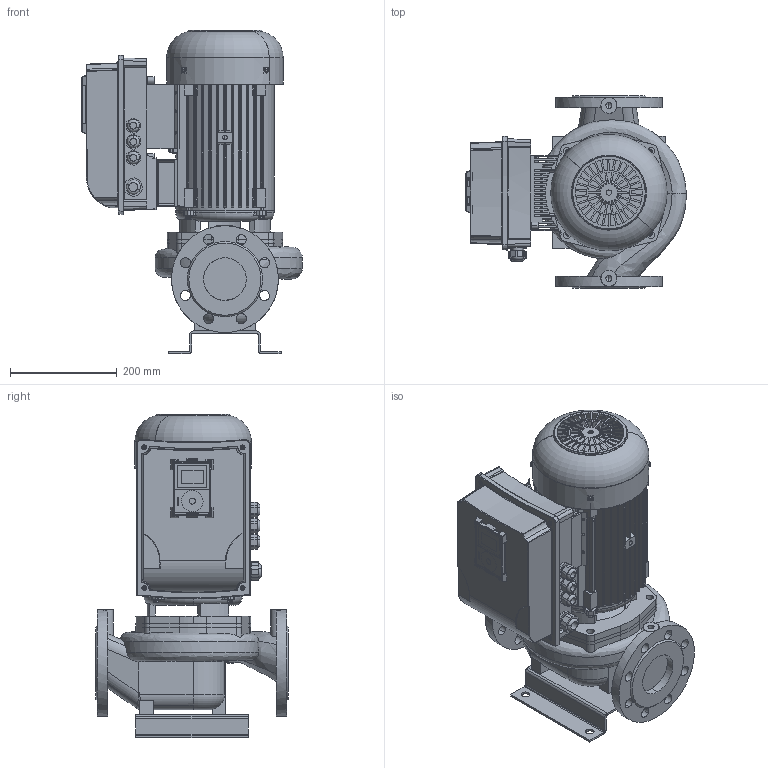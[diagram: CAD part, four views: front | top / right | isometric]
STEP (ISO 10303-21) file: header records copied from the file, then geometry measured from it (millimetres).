
FILE_DESCRIPTION(('STEP AP214'),'1');
FILE_NAME('export.stp','2018-06-04T06:55:32',(' '),(' '),'Spatial InterOp 3D',' ',' ');
FILE_SCHEMA(('AUTOMOTIVE_DESIGN { 1 0 10303 214 1 1 1 1 }'));
Length unit declared in the file: millimetre
Products named in the file (26): 440017; 440016; V_MKP112-1-F19_VS; 440015___; 440018; 440021; DIN_EN_24017_-_M6_30_DIN_EN_2401; DIN_EN_ISO_7045-M5X6_DIN_EN_ISO_; Vacon_MS2; G43699; Vacon20CP_MS2; MS2_bottom_final; P101407; MS2_cover_final; Vacon_Display; CAD-3D-VACON-M100-Display.sldasm; Vacon_display_pla; Vacon_display_scr; DIN_966-M5x10; M20_tiivisteholkk; M25_tiivisteholkk; SOVITUSPALA; W_L80A2400_KPVS; V_TLL65AB80A1102; V_PPL80A; V_JALKA35973
Assembly tree (40 placements, depth 6):
  W_L80A2400_KPVS
    V_MKP112-1-F19_VS
      440017
        440016
      440015___
      440018
      440021
      DIN_EN_24017_-_M6_30_DIN_EN_2401  x8
      DIN_EN_ISO_7045-M5X6_DIN_EN_ISO_  x4
      Vacon_MS2
        G43699
        Vacon20CP_MS2
          MS2_bottom_final
          P101407
          MS2_cover_final
          Vacon_Display
            CAD-3D-VACON-M100-Display.sldasm
            Vacon_display_pla
            Vacon_display_scr
          DIN_966-M5x10  x4
          M20_tiivisteholkk  x3
          M25_tiivisteholkk
      SOVITUSPALA
    V_TLL65AB80A1102
    V_PPL80A
    V_JALKA35973
Bounding box: 413.31 x 360 x 606.2 mm (x, y, z)
Volume: 9951569 mm3; surface area: 2281947.9 mm2
Topology: 34 solids, 1507 shells, 4800 faces, 16620 edges, 13367 vertices
Faces by surface type: bspline 1613, cylinder 1323, plane 1202, cone 323, torus 296, sphere 43
Entity records: 214501 total; most frequent: CARTESIAN_POINT 86568, ORIENTED_EDGE 23086, EDGE_CURVE 15365, DIRECTION 15190, VERTEX_POINT 12667, B_SPLINE_CURVE_WITH_KNOTS 7521, AXIS2_PLACEMENT_3D 5898, EDGE_LOOP 4782
